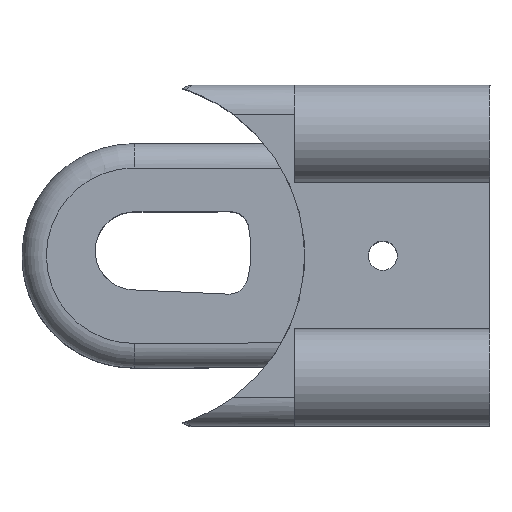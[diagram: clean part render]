
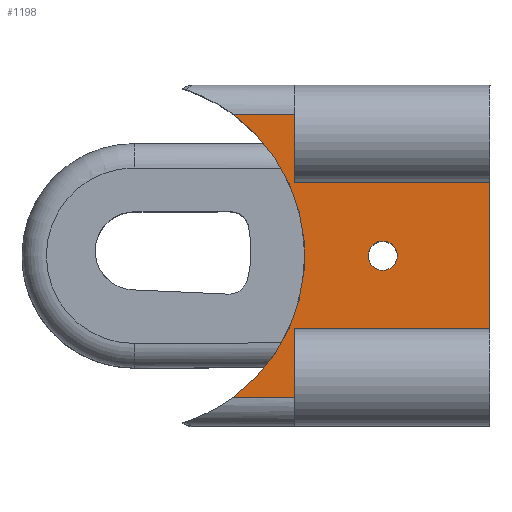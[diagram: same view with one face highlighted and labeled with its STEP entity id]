
A CAD part, top view. The second image highlights one B-rep face of the part: STEP entity #1198.
In plain terms, the highlighted free-form (B-spline) face has degree [1, 1] with [2, 2] control points.
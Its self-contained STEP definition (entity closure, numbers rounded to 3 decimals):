
#510=CARTESIAN_POINT('',(2.407,23.038,6.953));
#511=VERTEX_POINT('',#510);
#521=CARTESIAN_POINT('',(2.407,16.047,6.953));
#522=VERTEX_POINT('',#521);
#523=CARTESIAN_POINT('',(2.407,16.047,6.953));
#524=DIRECTION('',(0.,1.,0.0));
#525=VECTOR('',#524,6.991);
#526=LINE('',#523,#525);
#527=EDGE_CURVE('',#522,#511,#526,.T.);
#624=CARTESIAN_POINT('',(22.407,16.047,6.953));
#625=VERTEX_POINT('',#624);
#626=CARTESIAN_POINT('',(22.407,16.047,6.953));
#627=DIRECTION('',(-1.,0.,0.0));
#628=VECTOR('',#627,20.);
#629=LINE('',#626,#628);
#630=EDGE_CURVE('',#625,#522,#629,.T.);
#696=CARTESIAN_POINT('',(2.407,-5.962,6.953));
#697=VERTEX_POINT('',#696);
#698=CARTESIAN_POINT('',(2.407,1.029,6.953));
#699=VERTEX_POINT('',#698);
#700=CARTESIAN_POINT('',(2.407,-5.962,6.953));
#701=DIRECTION('',(0.,1.,0.0));
#702=VECTOR('',#701,6.991);
#703=LINE('',#700,#702);
#704=EDGE_CURVE('',#697,#699,#703,.T.);
#842=CARTESIAN_POINT('',(22.407,1.029,6.953));
#843=VERTEX_POINT('',#842);
#850=CARTESIAN_POINT('',(2.407,1.029,6.953));
#851=DIRECTION('',(1.,0.,0.0));
#852=VECTOR('',#851,20.);
#853=LINE('',#850,#852);
#854=EDGE_CURVE('',#699,#843,#853,.T.);
#1147=CARTESIAN_POINT('',(-3.927,23.038,6.953));
#1148=CARTESIAN_POINT('',(22.407,23.038,6.953));
#1149=CARTESIAN_POINT('',(-3.927,-5.962,6.953));
#1150=CARTESIAN_POINT('',(22.407,-5.962,6.953));
#1151=B_SPLINE_SURFACE_WITH_KNOTS('',1,1,((#1147,#1149),(#1148,#1150)),.UNSPECIFIED.,.F.,.F.,.U.,(2,2),(2,2),(0.0,26.335),(0.0,29.),.UNSPECIFIED.);
#1152=ORIENTED_EDGE('',*,*,#527,.T.);
#1153=CARTESIAN_POINT('',(-3.927,23.038,6.953));
#1154=VERTEX_POINT('',#1153);
#1155=CARTESIAN_POINT('',(-3.927,23.038,6.953));
#1156=DIRECTION('',(1.0,0.0,0.0));
#1157=VECTOR('',#1156,6.335);
#1158=LINE('',#1155,#1157);
#1159=EDGE_CURVE('',#1154,#511,#1158,.T.);
#1160=ORIENTED_EDGE('',*,*,#1159,.F.);
#1161=CARTESIAN_POINT('',(-3.927,-5.962,6.953));
#1162=VERTEX_POINT('',#1161);
#1163=CARTESIAN_POINT('',(-14.593,8.538,6.953));
#1164=DIRECTION('',(0.,0.,-1.));
#1165=DIRECTION('',(-0.306,0.952,0.));
#1166=AXIS2_PLACEMENT_3D('',#1163,#1164,#1165);
#1167=CIRCLE('',#1166,18.);
#1168=EDGE_CURVE('',#1154,#1162,#1167,.T.);
#1169=ORIENTED_EDGE('',*,*,#1168,.T.);
#1170=CARTESIAN_POINT('',(2.407,-5.962,6.953));
#1171=DIRECTION('',(-1.0,0.0,0.0));
#1172=VECTOR('',#1171,6.335);
#1173=LINE('',#1170,#1172);
#1174=EDGE_CURVE('',#697,#1162,#1173,.T.);
#1175=ORIENTED_EDGE('',*,*,#1174,.F.);
#1176=ORIENTED_EDGE('',*,*,#704,.T.);
#1177=ORIENTED_EDGE('',*,*,#854,.T.);
#1178=CARTESIAN_POINT('',(22.407,1.029,6.953));
#1179=DIRECTION('',(0.,1.,0.0));
#1180=VECTOR('',#1179,15.018);
#1181=LINE('',#1178,#1180);
#1182=EDGE_CURVE('',#843,#625,#1181,.T.);
#1183=ORIENTED_EDGE('',*,*,#1182,.T.);
#1184=ORIENTED_EDGE('',*,*,#630,.T.);
#1185=EDGE_LOOP('',(#1152,#1160,#1169,#1175,#1176,#1177,#1183,#1184));
#1186=FACE_OUTER_BOUND('',#1185,.T.);
#1187=CARTESIAN_POINT('',(12.907,8.538,6.953));
#1188=VERTEX_POINT('',#1187);
#1189=CARTESIAN_POINT('',(11.407,8.538,6.953));
#1190=DIRECTION('',(0.0,0.0,-1.0));
#1191=DIRECTION('',(-1.0,0.0,0.0));
#1192=AXIS2_PLACEMENT_3D('',#1189,#1190,#1191);
#1193=CIRCLE('',#1192,1.5);
#1194=EDGE_CURVE('',#1188,#1188,#1193,.T.);
#1195=ORIENTED_EDGE('',*,*,#1194,.T.);
#1196=EDGE_LOOP('',(#1195));
#1197=FACE_BOUND('',#1196,.T.);
#1198=ADVANCED_FACE('',(#1186,#1197),#1151,.F.);
